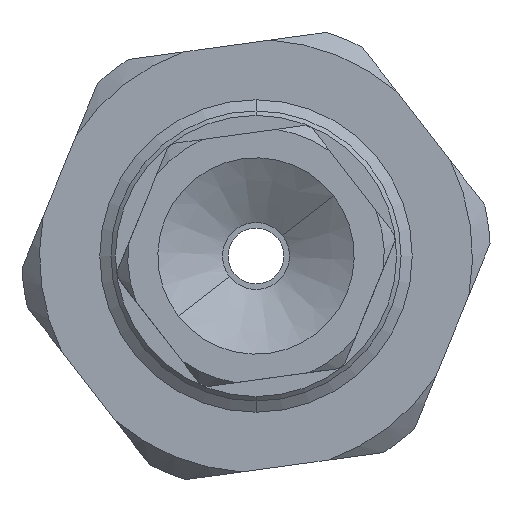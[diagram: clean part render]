
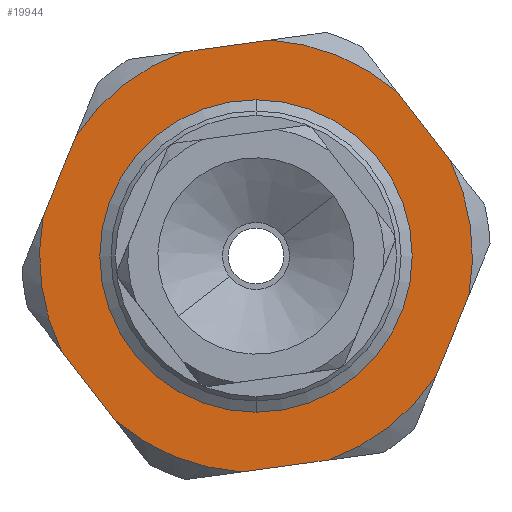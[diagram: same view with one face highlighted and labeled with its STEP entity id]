
A CAD part, front view. The second image highlights one B-rep face of the part: STEP entity #19944.
In plain terms, the highlighted planar face has unit normal (0, -1, 0).
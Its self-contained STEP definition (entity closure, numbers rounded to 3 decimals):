
#14 = FACE_BOUND ( 'NONE', #3752, .T. ) ;
#170 = VERTEX_POINT ( 'NONE', #7783 ) ;
#607 = ORIENTED_EDGE ( 'NONE', *, *, #15193, .T. ) ;
#1332 = VERTEX_POINT ( 'NONE', #15687 ) ;
#1355 = VECTOR ( 'NONE', #4984, 1000. ) ;
#1598 = AXIS2_PLACEMENT_3D ( 'NONE', #5144, #20958, #7419 ) ;
#1735 = DIRECTION ( 'NONE',  ( 0., 1., 0. ) ) ;
#1763 = VERTEX_POINT ( 'NONE', #13570 ) ;
#2115 = AXIS2_PLACEMENT_3D ( 'NONE', #18778, #5236, #21049 ) ;
#2277 = VERTEX_POINT ( 'NONE', #12043 ) ;
#2286 = VERTEX_POINT ( 'NONE', #11948 ) ;
#2865 = CIRCLE ( 'NONE', #21572, 6.25 ) ;
#2888 = VECTOR ( 'NONE', #26196, 1000. ) ;
#3032 = VERTEX_POINT ( 'NONE', #27673 ) ;
#3560 = EDGE_CURVE ( 'NONE', #1763, #15785, #16399, .T. ) ;
#3681 = ORIENTED_EDGE ( 'NONE', *, *, #23498, .T. ) ;
#3752 = EDGE_LOOP ( 'NONE', ( #10982, #28112 ) ) ;
#3878 = EDGE_CURVE ( 'NONE', #3032, #17673, #11381, .T. ) ;
#4269 = CIRCLE ( 'NONE', #1598, 9.7 ) ;
#4276 = DIRECTION ( 'NONE',  ( 0., -1., 0. ) ) ;
#4571 = AXIS2_PLACEMENT_3D ( 'NONE', #18446, #4894, #20716 ) ;
#4593 = CARTESIAN_POINT ( 'NONE',  ( -18.849, -9.612, 65.405 ) ) ;
#4656 = VERTEX_POINT ( 'NONE', #20247 ) ;
#4806 = EDGE_CURVE ( 'NONE', #8802, #16533, #4269, .T. ) ;
#4894 = DIRECTION ( 'NONE',  ( 0., -1., 0. ) ) ;
#4984 = DIRECTION ( 'NONE',  ( -0.378, 0., -0.926 ) ) ;
#5144 = CARTESIAN_POINT ( 'NONE',  ( -10.794, -9.612, 60. ) ) ;
#5236 = DIRECTION ( 'NONE',  ( 0., -1., 0. ) ) ;
#5407 = CARTESIAN_POINT ( 'NONE',  ( -10.141, -9.612, 69.678 ) ) ;
#5663 = ORIENTED_EDGE ( 'NONE', *, *, #3560, .T. ) ;
#5840 = CARTESIAN_POINT ( 'NONE',  ( -12.082, -9.612, 69.412 ) ) ;
#6930 = CARTESIAN_POINT ( 'NONE',  ( -18.301, -9.612, 54.178 ) ) ;
#7011 = EDGE_CURVE ( 'NONE', #13347, #4656, #14599, .T. ) ;
#7223 = ORIENTED_EDGE ( 'NONE', *, *, #15277, .T. ) ;
#7419 = DIRECTION ( 'NONE',  ( -0.136, 0., 0.991 ) ) ;
#7524 = EDGE_CURVE ( 'NONE', #170, #13347, #25159, .T. ) ;
#7546 = CIRCLE ( 'NONE', #20313, 9.7 ) ;
#7783 = CARTESIAN_POINT ( 'NONE',  ( -7.564, -9.612, 50.853 ) ) ;
#7813 = DIRECTION ( 'NONE',  ( 0., -1., 0. ) ) ;
#8260 = EDGE_LOOP ( 'NONE', ( #17075, #3681, #607, #27077, #18982, #12191, #7223, #5663, #28295, #10512, #20351, #25479 ) ) ;
#8802 = VERTEX_POINT ( 'NONE', #17183 ) ;
#8893 = DIRECTION ( 'NONE',  ( 0., 1., 0. ) ) ;
#8979 = DIRECTION ( 'NONE',  ( 0., 1., 0. ) ) ;
#9174 = LINE ( 'NONE', #28217, #15191 ) ;
#9236 = CARTESIAN_POINT ( 'NONE',  ( -1.999, -9.612, 56.409 ) ) ;
#9549 = LINE ( 'NONE', #6930, #20857 ) ;
#9685 = CARTESIAN_POINT ( 'NONE',  ( -2.739, -9.612, 54.595 ) ) ;
#9877 = CARTESIAN_POINT ( 'NONE',  ( -9.506, -9.612, 50.588 ) ) ;
#10139 = DIRECTION ( 'NONE',  ( 0., -1., 0. ) ) ;
#10485 = VERTEX_POINT ( 'NONE', #13918 ) ;
#10512 = ORIENTED_EDGE ( 'NONE', *, *, #3878, .T. ) ;
#10982 = ORIENTED_EDGE ( 'NONE', *, *, #26114, .T. ) ;
#11080 = AXIS2_PLACEMENT_3D ( 'NONE', #15291, #1735, #17558 ) ;
#11381 = CIRCLE ( 'NONE', #24113, 9.7 ) ;
#11948 = CARTESIAN_POINT ( 'NONE',  ( -11.642, -9.612, 66.192 ) ) ;
#12043 = CARTESIAN_POINT ( 'NONE',  ( -14.024, -9.612, 69.147 ) ) ;
#12051 = EDGE_CURVE ( 'NONE', #1332, #2286, #23144, .T. ) ;
#12138 = DIRECTION ( 'NONE',  ( 0.991, 0., 0.136 ) ) ;
#12191 = ORIENTED_EDGE ( 'NONE', *, *, #23595, .T. ) ;
#12420 = DIRECTION ( 'NONE',  ( -0.613, 0., 0.79 ) ) ;
#13347 = VERTEX_POINT ( 'NONE', #9685 ) ;
#13570 = CARTESIAN_POINT ( 'NONE',  ( -20.33, -9.612, 61.776 ) ) ;
#13672 = DIRECTION ( 'NONE',  ( 0.378, 0., 0.926 ) ) ;
#13918 = CARTESIAN_POINT ( 'NONE',  ( -2.086, -9.612, 64.273 ) ) ;
#14599 = LINE ( 'NONE', #9236, #22700 ) ;
#15191 = VECTOR ( 'NONE', #12420, 1000. ) ;
#15193 = EDGE_CURVE ( 'NONE', #10485, #8802, #9174, .T. ) ;
#15277 = EDGE_CURVE ( 'NONE', #21088, #1763, #25433, .T. ) ;
#15291 = CARTESIAN_POINT ( 'NONE',  ( -10.794, -9.612, 60. ) ) ;
#15687 = CARTESIAN_POINT ( 'NONE',  ( -9.947, -9.612, 53.808 ) ) ;
#15785 = VERTEX_POINT ( 'NONE', #20666 ) ;
#15914 = VECTOR ( 'NONE', #12138, 1000. ) ;
#16345 = AXIS2_PLACEMENT_3D ( 'NONE', #22406, #8893, #24684 ) ;
#16399 = CIRCLE ( 'NONE', #25275, 9.7 ) ;
#16533 = VERTEX_POINT ( 'NONE', #5407 ) ;
#17075 = ORIENTED_EDGE ( 'NONE', *, *, #7011, .T. ) ;
#17183 = CARTESIAN_POINT ( 'NONE',  ( -4.488, -9.612, 67.37 ) ) ;
#17558 = DIRECTION ( 'NONE',  ( -0.136, 0., 0.991 ) ) ;
#17673 = VERTEX_POINT ( 'NONE', #20971 ) ;
#17812 = CARTESIAN_POINT ( 'NONE',  ( -10.794, -9.612, 60. ) ) ;
#18446 = CARTESIAN_POINT ( 'NONE',  ( -10.794, -9.612, 60. ) ) ;
#18539 = CARTESIAN_POINT ( 'NONE',  ( -19.589, -9.612, 63.591 ) ) ;
#18778 = CARTESIAN_POINT ( 'NONE',  ( -10.794, -9.612, 60. ) ) ;
#18982 = ORIENTED_EDGE ( 'NONE', *, *, #25859, .T. ) ;
#19944 = ADVANCED_FACE ( 'NONE', ( #14, #28675 ), #28722, .F. ) ;
#20085 = DIRECTION ( 'NONE',  ( -0.136, 0., 0.991 ) ) ;
#20247 = CARTESIAN_POINT ( 'NONE',  ( -1.258, -9.612, 58.224 ) ) ;
#20313 = AXIS2_PLACEMENT_3D ( 'NONE', #21334, #7813, #23602 ) ;
#20351 = ORIENTED_EDGE ( 'NONE', *, *, #20365, .T. ) ;
#20365 = EDGE_CURVE ( 'NONE', #17673, #170, #21908, .T. ) ;
#20479 = DIRECTION ( 'NONE',  ( 0.613, 0., -0.79 ) ) ;
#20666 = CARTESIAN_POINT ( 'NONE',  ( -19.502, -9.612, 55.727 ) ) ;
#20716 = DIRECTION ( 'NONE',  ( -0.136, 0., 0.991 ) ) ;
#20857 = VECTOR ( 'NONE', #20479, 1000. ) ;
#20958 = DIRECTION ( 'NONE',  ( 0., -1., 0. ) ) ;
#20971 = CARTESIAN_POINT ( 'NONE',  ( -11.447, -9.612, 50.322 ) ) ;
#21049 = DIRECTION ( 'NONE',  ( -0.136, 0., 0.991 ) ) ;
#21088 = VERTEX_POINT ( 'NONE', #4593 ) ;
#21334 = CARTESIAN_POINT ( 'NONE',  ( -10.794, -9.612, 60. ) ) ;
#21572 = AXIS2_PLACEMENT_3D ( 'NONE', #22511, #8979, #24767 ) ;
#21908 = LINE ( 'NONE', #9877, #15914 ) ;
#22406 = CARTESIAN_POINT ( 'NONE',  ( -10.794, -9.612, 60. ) ) ;
#22511 = CARTESIAN_POINT ( 'NONE',  ( -10.794, -9.612, 60. ) ) ;
#22700 = VECTOR ( 'NONE', #13672, 1000. ) ;
#23144 = CIRCLE ( 'NONE', #16345, 6.25 ) ;
#23498 = EDGE_CURVE ( 'NONE', #4656, #10485, #23794, .T. ) ;
#23595 = EDGE_CURVE ( 'NONE', #2277, #21088, #7546, .T. ) ;
#23602 = DIRECTION ( 'NONE',  ( -0.136, 0., 0.991 ) ) ;
#23654 = CARTESIAN_POINT ( 'NONE',  ( -10.794, -9.612, 60. ) ) ;
#23794 = CIRCLE ( 'NONE', #2115, 9.7 ) ;
#24113 = AXIS2_PLACEMENT_3D ( 'NONE', #17812, #4276, #20085 ) ;
#24562 = EDGE_CURVE ( 'NONE', #15785, #3032, #9549, .T. ) ;
#24684 = DIRECTION ( 'NONE',  ( -0.136, 0., 0.991 ) ) ;
#24767 = DIRECTION ( 'NONE',  ( -0.136, 0., 0.991 ) ) ;
#25159 = CIRCLE ( 'NONE', #4571, 9.7 ) ;
#25275 = AXIS2_PLACEMENT_3D ( 'NONE', #23654, #10139, #25943 ) ;
#25433 = LINE ( 'NONE', #18539, #1355 ) ;
#25479 = ORIENTED_EDGE ( 'NONE', *, *, #7524, .T. ) ;
#25859 = EDGE_CURVE ( 'NONE', #16533, #2277, #26221, .T. ) ;
#25943 = DIRECTION ( 'NONE',  ( -0.136, 0., 0.991 ) ) ;
#26114 = EDGE_CURVE ( 'NONE', #2286, #1332, #2865, .T. ) ;
#26196 = DIRECTION ( 'NONE',  ( -0.991, 0., -0.136 ) ) ;
#26221 = LINE ( 'NONE', #5840, #2888 ) ;
#27077 = ORIENTED_EDGE ( 'NONE', *, *, #4806, .T. ) ;
#27673 = CARTESIAN_POINT ( 'NONE',  ( -17.1, -9.612, 52.63 ) ) ;
#28112 = ORIENTED_EDGE ( 'NONE', *, *, #12051, .T. ) ;
#28217 = CARTESIAN_POINT ( 'NONE',  ( -3.287, -9.612, 65.822 ) ) ;
#28295 = ORIENTED_EDGE ( 'NONE', *, *, #24562, .T. ) ;
#28675 = FACE_OUTER_BOUND ( 'NONE', #8260, .T. ) ;
#28722 = PLANE ( 'NONE',  #11080 ) ;
